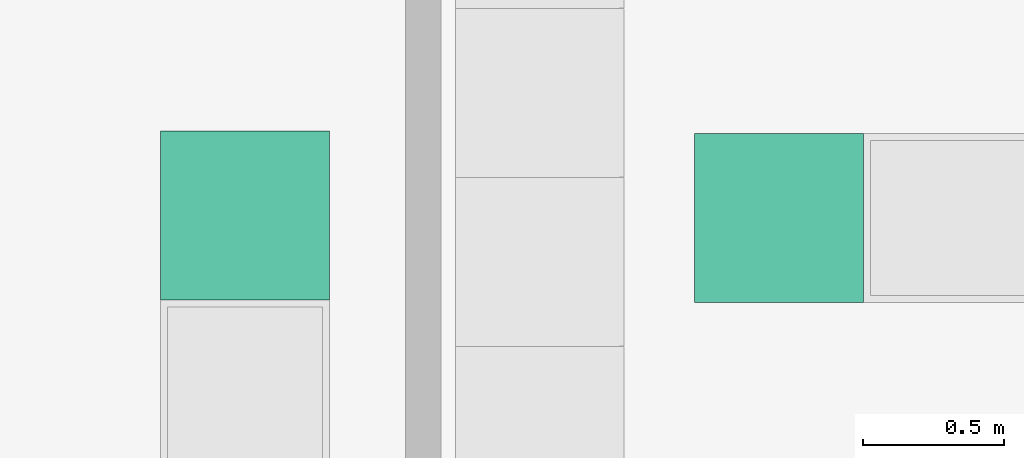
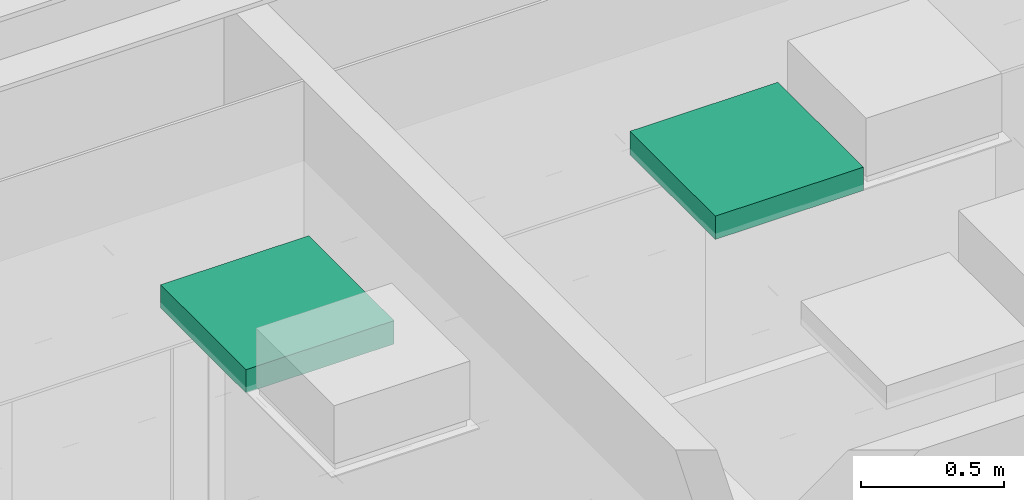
# One storey, part 191 of 347: 2 flow terminals.
"""IFC2X3 building model written with IfcOpenShell, lengths in millimetres."""

from ifc_helpers import new_model, entity, si_unit, converted_unit, derived_unit, money_unit, direction, frame, origin_with_axes, place, context, subcontext, project, spatial, open_shell, faceted_brep, surface_model, source, transform, mapped, type_object, type_shapes, element, save


model = new_model("IFC2X3")

# Units and contexts
model_context = context("Model", 3, precision=0.01, world=origin_with_axes(), true_north=direction((0.0, 1.0)))
plan_context = context("Plan", 3, precision=0.01, world=origin_with_axes(), true_north=direction((0.0, 1.0)))
body_context = subcontext(model_context, "Body", "Model", "MODEL_VIEW")
ifc_project = project(units=[si_unit("LENGTHUNIT", "METRE", prefix="MILLI"), si_unit("AREAUNIT", "SQUARE_METRE"), si_unit("VOLUMEUNIT", "CUBIC_METRE"), converted_unit("PLANEANGLEUNIT", "DEGREE", entity("IfcPlaneAngleMeasure", 0.0174532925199), si_unit("PLANEANGLEUNIT", "RADIAN"), dimensions=[0, 0, 0, 0, 0, 0, 0]), money_unit("EUR"), converted_unit("TIMEUNIT", "Year", entity("IfcTimeMeasure", 31556926.0), si_unit("TIMEUNIT", "SECOND"), dimensions=[0, 0, 1, 0, 0, 0, 0]), si_unit("MASSUNIT", "GRAM", prefix="KILO"), si_unit("THERMODYNAMICTEMPERATUREUNIT", "DEGREE_CELSIUS"), si_unit("LUMINOUSINTENSITYUNIT", "LUMEN"), si_unit("ENERGYUNIT", "JOULE", prefix="MEGA"), derived_unit("THERMALCONDUCTANCEUNIT", [(si_unit("POWERUNIT", "WATT"), 1), (si_unit("LENGTHUNIT", "METRE"), -1), (si_unit("THERMODYNAMICTEMPERATUREUNIT", "KELVIN"), -1)]), derived_unit("SPECIFICHEATCAPACITYUNIT", [(si_unit("ENERGYUNIT", "JOULE"), 1), (si_unit("MASSUNIT", "GRAM", prefix="KILO"), -1), (si_unit("THERMODYNAMICTEMPERATUREUNIT", "KELVIN"), -1)]), derived_unit("MASSDENSITYUNIT", [(si_unit("MASSUNIT", "GRAM", prefix="KILO"), 1), (si_unit("VOLUMEUNIT", "CUBIC_METRE"), -1)])], contexts=[model_context, plan_context])

# Site, building, storey
site_placement = place(None, origin_with_axes())
site = spatial("IfcSite", under=ifc_project, at=site_placement, Name="Site", CompositionType="ELEMENT")
building_placement = place(site_placement, origin_with_axes())
building = spatial("IfcBuilding", under=site, at=building_placement, Name="Naam gebouw", CompositionType="ELEMENT")
storey_placement = place(building_placement, origin_with_axes())
storey = spatial("IfcBuildingStorey", under=building, at=storey_placement, Name="begane grond", CompositionType="ELEMENT", Elevation=0.0)

# Flow terminals
lamp_type = type_object("IfcLampType", Name="TL plafond 25", PredefinedType="NOTDEFINED")
shared_shape = source(origin_with_axes(), body_context, "Body", "SurfaceModel", [
    faceted_brep([(0.0, 0.0, -100.0), (600.0, 0.0, -100.0), (600.0, 0.0, 0.0), (0.0, 0.0, 0.0), (0.0, 600.0, -100.0), (600.0, 600.0, -100.0), (40.0, 40.0, -100.0), (560.0, 40.0, -100.0), (560.0, 560.0, -100.0), (40.0, 560.0, -100.0), (600.0, 600.0, 0.0), (0.0, 600.0, 0.0), (40.0, 40.0, 0.0), (40.0, 560.0, 0.0), (560.0, 560.0, 0.0), (560.0, 40.0, 0.0)], [[[0, 1, 2, 3]], [[0, 4, 5, 1], [6, 7, 8, 9]], [[1, 5, 10, 2]], [[3, 2, 10, 11], [12, 13, 14, 15]], [[4, 0, 3, 11]], [[5, 4, 11, 10]], [[7, 6, 12, 15]], [[8, 7, 15, 14]], [[9, 8, 14, 13]], [[6, 9, 13, 12]]]),
    faceted_brep([(40.0, 40.0, -16.3333333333), (560.0, 40.0, -16.3333333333), (560.0, 40.0, 0.0), (40.0, 40.0, 0.0), (40.0, 560.0, -16.3333333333), (560.0, 560.0, -16.3333333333), (560.0, 560.0, 0.0), (40.0, 560.0, 0.0)], [[[0, 1, 2, 3]], [[0, 4, 5, 1]], [[1, 5, 6, 2]], [[3, 2, 6, 7]], [[4, 0, 3, 7]], [[5, 4, 7, 6]]]),
    surface_model("IfcShellBasedSurfaceModel", [(559.0, 41.0, -100.0), (40.0, 41.0, -100.0), (40.0, 559.0, -100.0), (559.0, 559.0, -100.0)], [open_shell([[[0, 1, 2, 3]]])]),
    faceted_brep([(40.0, 40.0, -100.0), (560.0, 40.0, -100.0), (560.0, 40.0, -60.0), (40.0, 40.0, -60.0), (40.0, 560.0, -100.0), (560.0, 560.0, -100.0), (41.0, 41.0, -100.0), (559.0, 41.0, -100.0), (559.0, 559.0, -100.0), (41.0, 559.0, -100.0), (560.0, 560.0, -60.0), (40.0, 560.0, -60.0), (41.0, 41.0, -60.0), (41.0, 559.0, -60.0), (559.0, 559.0, -60.0), (559.0, 41.0, -60.0)], [[[0, 1, 2, 3]], [[0, 4, 5, 1], [6, 7, 8, 9]], [[1, 5, 10, 2]], [[3, 2, 10, 11], [12, 13, 14, 15]], [[4, 0, 3, 11]], [[5, 4, 11, 10]], [[7, 6, 12, 15]], [[8, 7, 15, 14]], [[9, 8, 14, 13]], [[6, 9, 13, 12]]]),
    faceted_brep([(40.0, 144.0, -48.3333333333), (40.0, 149.740251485, -47.191526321), (560.0, 149.740251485, -47.191526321), (560.0, 144.0, -48.3333333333), (40.0, 138.259748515, -47.191526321), (40.0, 133.393398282, -43.9399350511), (40.0, 130.141807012, -39.0735848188), (40.0, 129.0, -33.3333333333), (40.0, 130.141807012, -27.5930818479), (40.0, 133.393398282, -22.7267316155), (40.0, 138.259748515, -19.4751403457), (40.0, 144.0, -18.3333333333), (40.0, 149.740251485, -19.4751403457), (40.0, 154.606601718, -22.7267316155), (40.0, 157.858192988, -27.5930818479), (40.0, 159.0, -33.3333333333), (40.0, 157.858192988, -39.0735848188), (40.0, 154.606601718, -43.9399350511), (40.0, 144.0, -46.3333333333), (40.0, 148.974884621, -45.343767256), (40.0, 153.192388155, -42.5257214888), (40.0, 156.010433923, -38.3082179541), (40.0, 157.0, -33.3333333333), (40.0, 156.010433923, -28.3584487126), (40.0, 153.192388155, -24.1409451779), (40.0, 148.974884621, -21.3228994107), (40.0, 144.0, -20.3333333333), (40.0, 139.025115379, -21.3228994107), (40.0, 134.807611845, -24.1409451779), (40.0, 131.989566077, -28.3584487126), (40.0, 131.0, -33.3333333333), (40.0, 131.989566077, -38.3082179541), (40.0, 134.807611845, -42.5257214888), (40.0, 139.025115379, -45.343767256), (560.0, 154.606601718, -43.9399350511), (560.0, 157.858192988, -39.0735848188), (560.0, 159.0, -33.3333333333), (560.0, 157.858192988, -27.5930818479), (560.0, 154.606601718, -22.7267316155), (560.0, 149.740251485, -19.4751403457), (560.0, 144.0, -18.3333333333), (560.0, 138.259748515, -19.4751403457), (560.0, 133.393398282, -22.7267316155), (560.0, 130.141807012, -27.5930818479), (560.0, 129.0, -33.3333333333), (560.0, 130.141807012, -39.0735848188), (560.0, 133.393398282, -43.9399350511), (560.0, 138.259748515, -47.191526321), (560.0, 144.0, -46.3333333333), (560.0, 139.025115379, -45.343767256), (560.0, 134.807611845, -42.5257214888), (560.0, 131.989566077, -38.3082179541), (560.0, 131.0, -33.3333333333), (560.0, 131.989566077, -28.3584487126), (560.0, 134.807611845, -24.1409451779), (560.0, 139.025115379, -21.3228994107), (560.0, 144.0, -20.3333333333), (560.0, 148.974884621, -21.3228994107), (560.0, 153.192388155, -24.1409451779), (560.0, 156.010433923, -28.3584487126), (560.0, 157.0, -33.3333333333), (560.0, 156.010433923, -38.3082179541), (560.0, 153.192388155, -42.5257214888), (560.0, 148.974884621, -45.343767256)], [[[0, 1, 2, 3]], [[0, 4, 5, 6, 7, 8, 9, 10, 11, 12, 13, 14, 15, 16, 17, 1], [18, 19, 20, 21, 22, 23, 24, 25, 26, 27, 28, 29, 30, 31, 32, 33]], [[1, 17, 34, 2]], [[3, 2, 34, 35, 36, 37, 38, 39, 40, 41, 42, 43, 44, 45, 46, 47], [48, 49, 50, 51, 52, 53, 54, 55, 56, 57, 58, 59, 60, 61, 62, 63]], [[4, 0, 3, 47]], [[5, 4, 47, 46]], [[6, 5, 46, 45]], [[7, 6, 45, 44]], [[8, 7, 44, 43]], [[9, 8, 43, 42]], [[10, 9, 42, 41]], [[11, 10, 41, 40]], [[12, 11, 40, 39]], [[13, 12, 39, 38]], [[14, 13, 38, 37]], [[15, 14, 37, 36]], [[16, 15, 36, 35]], [[17, 16, 35, 34]], [[19, 18, 48, 63]], [[20, 19, 63, 62]], [[21, 20, 62, 61]], [[22, 21, 61, 60]], [[23, 22, 60, 59]], [[24, 23, 59, 58]], [[25, 24, 58, 57]], [[26, 25, 57, 56]], [[27, 26, 56, 55]], [[28, 27, 55, 54]], [[29, 28, 54, 53]], [[30, 29, 53, 52]], [[31, 30, 52, 51]], [[32, 31, 51, 50]], [[33, 32, 50, 49]], [[18, 33, 49, 48]]]),
    faceted_brep([(40.0, 248.0, -48.3333333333), (40.0, 253.740251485, -47.191526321), (560.0, 253.740251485, -47.191526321), (560.0, 248.0, -48.3333333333), (40.0, 242.259748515, -47.191526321), (40.0, 237.393398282, -43.9399350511), (40.0, 234.141807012, -39.0735848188), (40.0, 233.0, -33.3333333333), (40.0, 234.141807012, -27.5930818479), (40.0, 237.393398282, -22.7267316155), (40.0, 242.259748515, -19.4751403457), (40.0, 248.0, -18.3333333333), (40.0, 253.740251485, -19.4751403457), (40.0, 258.606601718, -22.7267316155), (40.0, 261.858192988, -27.5930818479), (40.0, 263.0, -33.3333333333), (40.0, 261.858192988, -39.0735848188), (40.0, 258.606601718, -43.9399350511), (40.0, 248.0, -46.3333333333), (40.0, 252.974884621, -45.343767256), (40.0, 257.192388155, -42.5257214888), (40.0, 260.010433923, -38.3082179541), (40.0, 261.0, -33.3333333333), (40.0, 260.010433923, -28.3584487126), (40.0, 257.192388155, -24.1409451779), (40.0, 252.974884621, -21.3228994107), (40.0, 248.0, -20.3333333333), (40.0, 243.025115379, -21.3228994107), (40.0, 238.807611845, -24.1409451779), (40.0, 235.989566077, -28.3584487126), (40.0, 235.0, -33.3333333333), (40.0, 235.989566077, -38.3082179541), (40.0, 238.807611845, -42.5257214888), (40.0, 243.025115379, -45.343767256), (560.0, 258.606601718, -43.9399350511), (560.0, 261.858192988, -39.0735848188), (560.0, 263.0, -33.3333333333), (560.0, 261.858192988, -27.5930818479), (560.0, 258.606601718, -22.7267316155), (560.0, 253.740251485, -19.4751403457), (560.0, 248.0, -18.3333333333), (560.0, 242.259748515, -19.4751403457), (560.0, 237.393398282, -22.7267316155), (560.0, 234.141807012, -27.5930818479), (560.0, 233.0, -33.3333333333), (560.0, 234.141807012, -39.0735848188), (560.0, 237.393398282, -43.9399350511), (560.0, 242.259748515, -47.191526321), (560.0, 248.0, -46.3333333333), (560.0, 243.025115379, -45.343767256), (560.0, 238.807611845, -42.5257214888), (560.0, 235.989566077, -38.3082179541), (560.0, 235.0, -33.3333333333), (560.0, 235.989566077, -28.3584487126), (560.0, 238.807611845, -24.1409451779), (560.0, 243.025115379, -21.3228994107), (560.0, 248.0, -20.3333333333), (560.0, 252.974884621, -21.3228994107), (560.0, 257.192388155, -24.1409451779), (560.0, 260.010433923, -28.3584487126), (560.0, 261.0, -33.3333333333), (560.0, 260.010433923, -38.3082179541), (560.0, 257.192388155, -42.5257214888), (560.0, 252.974884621, -45.343767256)], [[[0, 1, 2, 3]], [[0, 4, 5, 6, 7, 8, 9, 10, 11, 12, 13, 14, 15, 16, 17, 1], [18, 19, 20, 21, 22, 23, 24, 25, 26, 27, 28, 29, 30, 31, 32, 33]], [[1, 17, 34, 2]], [[3, 2, 34, 35, 36, 37, 38, 39, 40, 41, 42, 43, 44, 45, 46, 47], [48, 49, 50, 51, 52, 53, 54, 55, 56, 57, 58, 59, 60, 61, 62, 63]], [[4, 0, 3, 47]], [[5, 4, 47, 46]], [[6, 5, 46, 45]], [[7, 6, 45, 44]], [[8, 7, 44, 43]], [[9, 8, 43, 42]], [[10, 9, 42, 41]], [[11, 10, 41, 40]], [[12, 11, 40, 39]], [[13, 12, 39, 38]], [[14, 13, 38, 37]], [[15, 14, 37, 36]], [[16, 15, 36, 35]], [[17, 16, 35, 34]], [[19, 18, 48, 63]], [[20, 19, 63, 62]], [[21, 20, 62, 61]], [[22, 21, 61, 60]], [[23, 22, 60, 59]], [[24, 23, 59, 58]], [[25, 24, 58, 57]], [[26, 25, 57, 56]], [[27, 26, 56, 55]], [[28, 27, 55, 54]], [[29, 28, 54, 53]], [[30, 29, 53, 52]], [[31, 30, 52, 51]], [[32, 31, 51, 50]], [[33, 32, 50, 49]], [[18, 33, 49, 48]]]),
    faceted_brep([(40.0, 352.0, -48.3333333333), (40.0, 357.740251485, -47.191526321), (560.0, 357.740251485, -47.191526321), (560.0, 352.0, -48.3333333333), (40.0, 346.259748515, -47.191526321), (40.0, 341.393398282, -43.9399350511), (40.0, 338.141807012, -39.0735848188), (40.0, 337.0, -33.3333333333), (40.0, 338.141807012, -27.5930818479), (40.0, 341.393398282, -22.7267316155), (40.0, 346.259748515, -19.4751403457), (40.0, 352.0, -18.3333333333), (40.0, 357.740251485, -19.4751403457), (40.0, 362.606601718, -22.7267316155), (40.0, 365.858192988, -27.5930818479), (40.0, 367.0, -33.3333333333), (40.0, 365.858192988, -39.0735848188), (40.0, 362.606601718, -43.9399350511), (40.0, 352.0, -46.3333333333), (40.0, 356.974884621, -45.343767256), (40.0, 361.192388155, -42.5257214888), (40.0, 364.010433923, -38.3082179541), (40.0, 365.0, -33.3333333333), (40.0, 364.010433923, -28.3584487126), (40.0, 361.192388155, -24.1409451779), (40.0, 356.974884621, -21.3228994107), (40.0, 352.0, -20.3333333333), (40.0, 347.025115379, -21.3228994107), (40.0, 342.807611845, -24.1409451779), (40.0, 339.989566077, -28.3584487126), (40.0, 339.0, -33.3333333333), (40.0, 339.989566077, -38.3082179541), (40.0, 342.807611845, -42.5257214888), (40.0, 347.025115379, -45.343767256), (560.0, 362.606601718, -43.9399350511), (560.0, 365.858192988, -39.0735848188), (560.0, 367.0, -33.3333333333), (560.0, 365.858192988, -27.5930818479), (560.0, 362.606601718, -22.7267316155), (560.0, 357.740251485, -19.4751403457), (560.0, 352.0, -18.3333333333), (560.0, 346.259748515, -19.4751403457), (560.0, 341.393398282, -22.7267316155), (560.0, 338.141807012, -27.5930818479), (560.0, 337.0, -33.3333333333), (560.0, 338.141807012, -39.0735848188), (560.0, 341.393398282, -43.9399350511), (560.0, 346.259748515, -47.191526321), (560.0, 352.0, -46.3333333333), (560.0, 347.025115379, -45.343767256), (560.0, 342.807611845, -42.5257214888), (560.0, 339.989566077, -38.3082179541), (560.0, 339.0, -33.3333333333), (560.0, 339.989566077, -28.3584487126), (560.0, 342.807611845, -24.1409451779), (560.0, 347.025115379, -21.3228994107), (560.0, 352.0, -20.3333333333), (560.0, 356.974884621, -21.3228994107), (560.0, 361.192388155, -24.1409451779), (560.0, 364.010433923, -28.3584487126), (560.0, 365.0, -33.3333333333), (560.0, 364.010433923, -38.3082179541), (560.0, 361.192388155, -42.5257214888), (560.0, 356.974884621, -45.343767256)], [[[0, 1, 2, 3]], [[0, 4, 5, 6, 7, 8, 9, 10, 11, 12, 13, 14, 15, 16, 17, 1], [18, 19, 20, 21, 22, 23, 24, 25, 26, 27, 28, 29, 30, 31, 32, 33]], [[1, 17, 34, 2]], [[3, 2, 34, 35, 36, 37, 38, 39, 40, 41, 42, 43, 44, 45, 46, 47], [48, 49, 50, 51, 52, 53, 54, 55, 56, 57, 58, 59, 60, 61, 62, 63]], [[4, 0, 3, 47]], [[5, 4, 47, 46]], [[6, 5, 46, 45]], [[7, 6, 45, 44]], [[8, 7, 44, 43]], [[9, 8, 43, 42]], [[10, 9, 42, 41]], [[11, 10, 41, 40]], [[12, 11, 40, 39]], [[13, 12, 39, 38]], [[14, 13, 38, 37]], [[15, 14, 37, 36]], [[16, 15, 36, 35]], [[17, 16, 35, 34]], [[19, 18, 48, 63]], [[20, 19, 63, 62]], [[21, 20, 62, 61]], [[22, 21, 61, 60]], [[23, 22, 60, 59]], [[24, 23, 59, 58]], [[25, 24, 58, 57]], [[26, 25, 57, 56]], [[27, 26, 56, 55]], [[28, 27, 55, 54]], [[29, 28, 54, 53]], [[30, 29, 53, 52]], [[31, 30, 52, 51]], [[32, 31, 51, 50]], [[33, 32, 50, 49]], [[18, 33, 49, 48]]]),
    faceted_brep([(40.0, 456.0, -48.3333333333), (40.0, 461.740251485, -47.191526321), (560.0, 461.740251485, -47.191526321), (560.0, 456.0, -48.3333333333), (40.0, 450.259748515, -47.191526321), (40.0, 445.393398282, -43.9399350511), (40.0, 442.141807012, -39.0735848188), (40.0, 441.0, -33.3333333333), (40.0, 442.141807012, -27.5930818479), (40.0, 445.393398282, -22.7267316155), (40.0, 450.259748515, -19.4751403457), (40.0, 456.0, -18.3333333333), (40.0, 461.740251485, -19.4751403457), (40.0, 466.606601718, -22.7267316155), (40.0, 469.858192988, -27.5930818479), (40.0, 471.0, -33.3333333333), (40.0, 469.858192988, -39.0735848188), (40.0, 466.606601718, -43.9399350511), (40.0, 456.0, -46.3333333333), (40.0, 460.974884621, -45.343767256), (40.0, 465.192388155, -42.5257214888), (40.0, 468.010433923, -38.3082179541), (40.0, 469.0, -33.3333333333), (40.0, 468.010433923, -28.3584487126), (40.0, 465.192388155, -24.1409451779), (40.0, 460.974884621, -21.3228994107), (40.0, 456.0, -20.3333333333), (40.0, 451.025115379, -21.3228994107), (40.0, 446.807611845, -24.1409451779), (40.0, 443.989566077, -28.3584487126), (40.0, 443.0, -33.3333333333), (40.0, 443.989566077, -38.3082179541), (40.0, 446.807611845, -42.5257214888), (40.0, 451.025115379, -45.343767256), (560.0, 466.606601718, -43.9399350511), (560.0, 469.858192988, -39.0735848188), (560.0, 471.0, -33.3333333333), (560.0, 469.858192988, -27.5930818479), (560.0, 466.606601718, -22.7267316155), (560.0, 461.740251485, -19.4751403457), (560.0, 456.0, -18.3333333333), (560.0, 450.259748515, -19.4751403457), (560.0, 445.393398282, -22.7267316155), (560.0, 442.141807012, -27.5930818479), (560.0, 441.0, -33.3333333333), (560.0, 442.141807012, -39.0735848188), (560.0, 445.393398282, -43.9399350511), (560.0, 450.259748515, -47.191526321), (560.0, 456.0, -46.3333333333), (560.0, 451.025115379, -45.343767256), (560.0, 446.807611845, -42.5257214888), (560.0, 443.989566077, -38.3082179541), (560.0, 443.0, -33.3333333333), (560.0, 443.989566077, -28.3584487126), (560.0, 446.807611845, -24.1409451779), (560.0, 451.025115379, -21.3228994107), (560.0, 456.0, -20.3333333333), (560.0, 460.974884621, -21.3228994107), (560.0, 465.192388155, -24.1409451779), (560.0, 468.010433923, -28.3584487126), (560.0, 469.0, -33.3333333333), (560.0, 468.010433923, -38.3082179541), (560.0, 465.192388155, -42.5257214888), (560.0, 460.974884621, -45.343767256)], [[[0, 1, 2, 3]], [[0, 4, 5, 6, 7, 8, 9, 10, 11, 12, 13, 14, 15, 16, 17, 1], [18, 19, 20, 21, 22, 23, 24, 25, 26, 27, 28, 29, 30, 31, 32, 33]], [[1, 17, 34, 2]], [[3, 2, 34, 35, 36, 37, 38, 39, 40, 41, 42, 43, 44, 45, 46, 47], [48, 49, 50, 51, 52, 53, 54, 55, 56, 57, 58, 59, 60, 61, 62, 63]], [[4, 0, 3, 47]], [[5, 4, 47, 46]], [[6, 5, 46, 45]], [[7, 6, 45, 44]], [[8, 7, 44, 43]], [[9, 8, 43, 42]], [[10, 9, 42, 41]], [[11, 10, 41, 40]], [[12, 11, 40, 39]], [[13, 12, 39, 38]], [[14, 13, 38, 37]], [[15, 14, 37, 36]], [[16, 15, 36, 35]], [[17, 16, 35, 34]], [[19, 18, 48, 63]], [[20, 19, 63, 62]], [[21, 20, 62, 61]], [[22, 21, 61, 60]], [[23, 22, 60, 59]], [[24, 23, 59, 58]], [[25, 24, 58, 57]], [[26, 25, 57, 56]], [[27, 26, 56, 55]], [[28, 27, 55, 54]], [[29, 28, 54, 53]], [[30, 29, 53, 52]], [[31, 30, 52, 51]], [[32, 31, 51, 50]], [[33, 32, 50, 49]], [[18, 33, 49, 48]]]),
])
type_shapes(lamp_type, [shared_shape])
for number, where, z_axis, x_axis, name in (
    (1, (15550.0, 10390.0012806, 3295.0), (0.0, 0.0, 1.0), (1.0, 0.0, 0.0), "63_Lamp-x"),
    (2, (13655.0, 10399.999972, 3295.0), (0.0, 0.0, 1.0), (1.0, 0.0, 0.0), "63_Lamp-x"),
):
    element("IfcFlowTerminal", number, at=place(storey_placement, frame(where, z_axis=z_axis, x_axis=x_axis)), inside=storey, type_object=lamp_type, Name=name, ObjectType="Lamp", context=body_context, shape_type="MappedRepresentation", body=[
        mapped(shared_shape, transform((0.0, 0.0, 0.0))),
    ])

save(model, "model.ifc")
